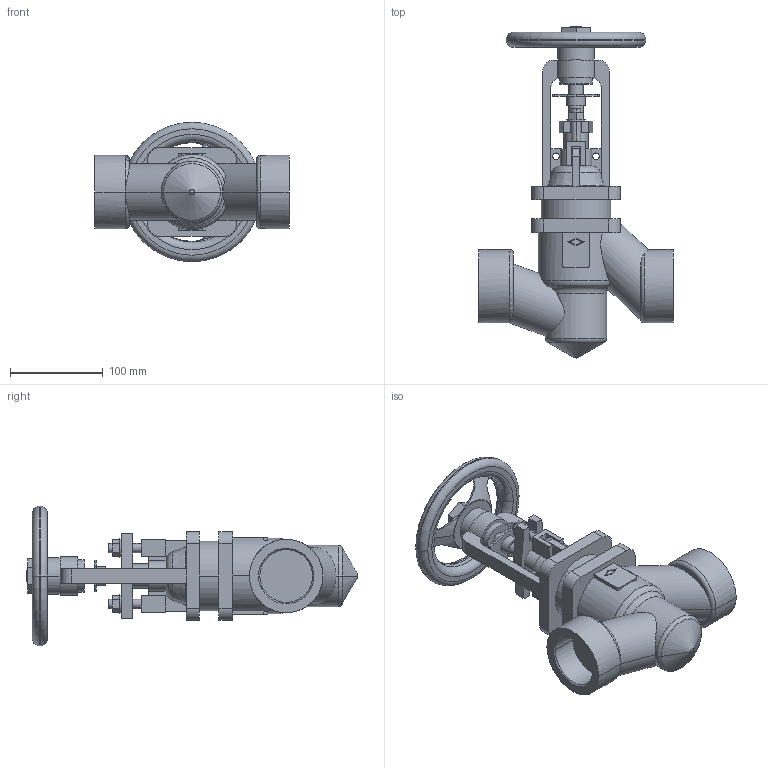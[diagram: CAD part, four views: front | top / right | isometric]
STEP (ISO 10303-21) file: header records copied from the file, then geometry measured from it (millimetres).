
FILE_DESCRIPTION(('OneSpaceDesigner STEP Export'),'2;1');
FILE_NAME('c000004258.stp','2010-05-04T 9:26:56',(''),(''),'OneSpace Designer STEP processor for AP214 (Solid Model)','OneSpace Modeling 15.50B 03-Nov-2007 (C) CoCreate Software GmbH','');
FILE_SCHEMA(('AUTOMOTIVE_DESIGN { 1 0 10303 214 1 1 1 1 }'));
Length unit declared in the file: millimetre
Products named in the file (1): 1
Bounding box: 209 x 357.13 x 150 mm (x, y, z)
Volume: 1715440.6 mm3; surface area: 204008 mm2
Topology: 1 solids, 1 shells, 285 faces, 762 edges, 497 vertices
Faces by surface type: plane 142, cylinder 97, torus 28, cone 16, sphere 2
Entity records: 11666 total; most frequent: CARTESIAN_POINT 2525, ORIENTED_EDGE 1516, DIRECTION 1298, EDGE_CURVE 758, VERTEX_POINT 493, AXIS2_PLACEMENT_3D 447, VECTOR 404, LINE 404
